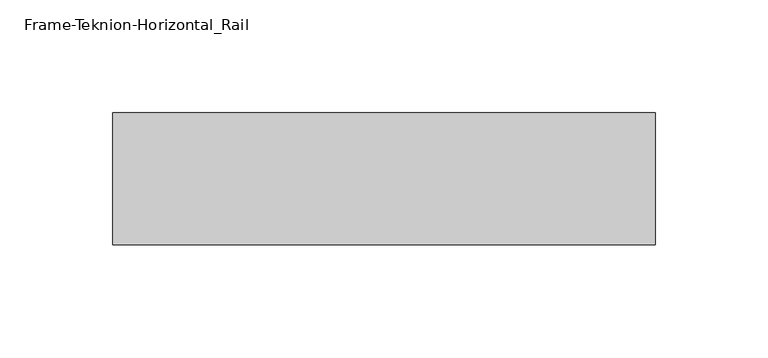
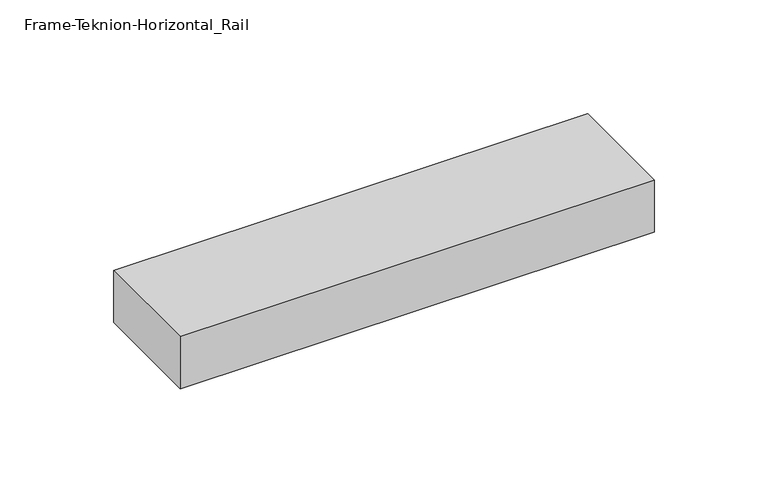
"""IFC4 building model written with IfcOpenShell, lengths in millimetres: proxy geometry, Frame-Teknion-Horizontal_Rail : FPKK."""

from ifc_helpers import new_model, si_unit, frame, origin, place, context, project, spatial, polyline, outline, extrude, source, transform, mapped, element, save


def frame_teknion_horizontal_rail_84c226ef(model_context):
    return source(origin(), model_context, "Body", "SweptSolid", [
        extrude(outline(polyline([(-120.0050781, 29.2199219), (120.0050781, 29.2199219), (120.0050781, -29.2199219), (-120.0050781, -29.2199219), (-120.0050781, 29.2199219)])), frame((0.0, 0.0, -13.9898438), z_axis=(0.0, 0.0, 1.0), x_axis=(1.0, 0.0, 0.0)), (0.0, 0.0, 1.0), 27.9796875),
    ])


if __name__ == "__main__":
    model = new_model("IFC4")
    model_context = context("Model", 3, world=origin())
    ifc_project = project(units=[si_unit("LENGTHUNIT", "METRE", prefix="MILLI")], contexts=[model_context])
    site = spatial("IfcSite", under=ifc_project)
    building = spatial("IfcBuilding", under=site)
    placement = place(None, origin())
    frame_teknion_horizontal_rail_shape = frame_teknion_horizontal_rail_84c226ef(model_context)
    element("IfcBuildingElementProxy", 1, Name="Frame-Teknion-Horizontal_Rail : FPKK", ObjectType="Frame-Teknion-Horizontal_Rail : FPKK", at=placement, inside=building, context=model_context, shape_type="MappedRepresentation", body=[
        mapped(frame_teknion_horizontal_rail_shape, transform((0.0, 0.0, 0.0), x_axis=(1.0, 0.0, 0.0), y_axis=(0.0, 1.0, 0.0), z_axis=(0.0, 0.0, 1.0))),
    ])
    save(model, "model.ifc")
